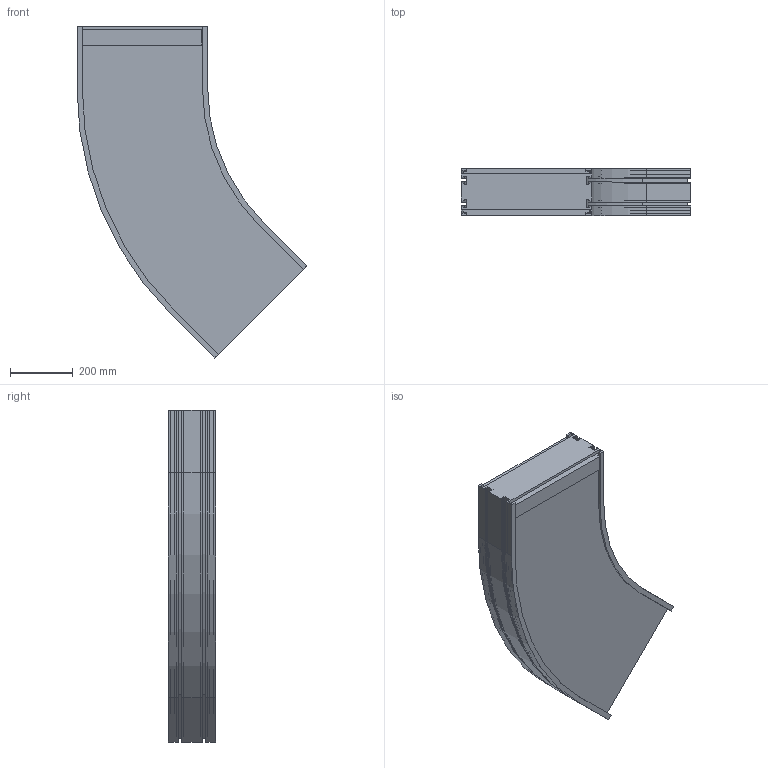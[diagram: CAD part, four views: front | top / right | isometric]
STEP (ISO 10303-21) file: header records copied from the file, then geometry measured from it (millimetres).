
FILE_DESCRIPTION (( 'STEP AP203' ), '1' );
FILE_NAME ('F2-1500-C45.STEP', '2009-02-16T12:22:43', ( 'faber' ), ( '' ), 'SwSTEP 2.0', 'SolidWorks 2008', '' );
FILE_SCHEMA (( 'CONFIG_CONTROL_DESIGN' ));
Length unit declared in the file: millimetre
Products named in the file (3): Tapis_1500; Courbe_ 1500; F2-1500-C45
Assembly tree (3 placements, depth 2):
  F2-1500-C45
    Tapis_1500  x2
    Courbe_ 1500
Bounding box: 735.45 x 152.88 x 1061.96 mm (x, y, z)
Volume: 49702967 mm3; surface area: 1923361.4 mm2
Topology: 3 solids, 3 shells, 190 faces, 552 edges, 368 vertices
Faces by surface type: plane 148, cylinder 42
Entity records: 6273 total; most frequent: CARTESIAN_POINT 1066, ORIENTED_EDGE 1056, DIRECTION 984, EDGE_CURVE 528, VECTOR 444, LINE 444, VERTEX_POINT 352, AXIS2_PLACEMENT_3D 270
